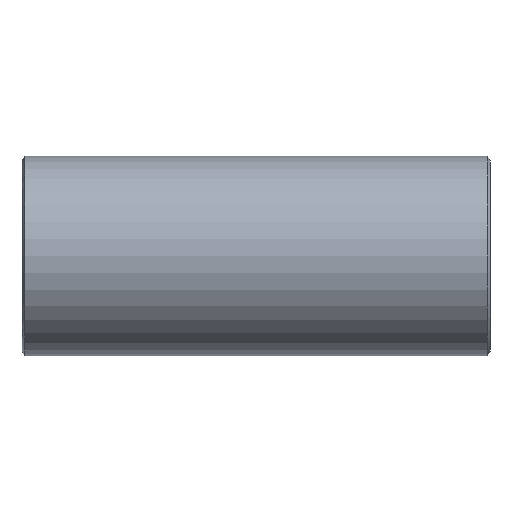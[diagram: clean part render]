
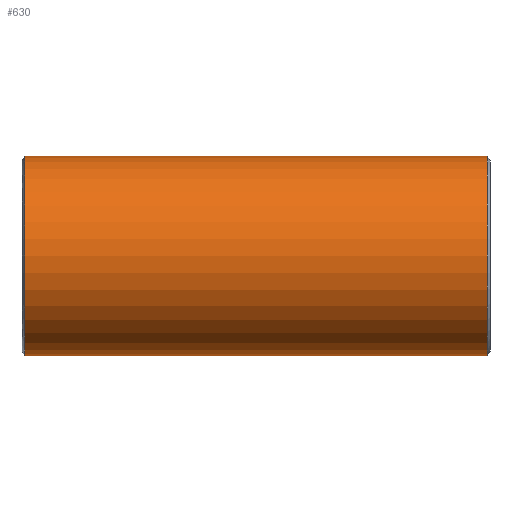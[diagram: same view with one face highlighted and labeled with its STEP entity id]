
A CAD part, front view. The second image highlights one B-rep face of the part: STEP entity #630.
In plain terms, the highlighted cylindrical face has radius 10.85 mm (diameter 21.7 mm), a partial arc.
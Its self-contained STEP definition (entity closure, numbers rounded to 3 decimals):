
#3 = CARTESIAN_POINT ( 'NONE',  ( 25.4, 0., -10.85 ) ) ;
#30 = VERTEX_POINT ( 'NONE', #996 ) ;
#32 = DIRECTION ( 'NONE',  ( -1., 0., 0. ) ) ;
#34 = CARTESIAN_POINT ( 'NONE',  ( 25.4, 0., 10.85 ) ) ;
#59 = ORIENTED_EDGE ( 'NONE', *, *, #1012, .F. ) ;
#61 = EDGE_CURVE ( 'NONE', #232, #30, #817, .T. ) ;
#103 = CARTESIAN_POINT ( 'NONE',  ( 25.081, 0., 10.85 ) ) ;
#117 = ORIENTED_EDGE ( 'NONE', *, *, #639, .T. ) ;
#125 = EDGE_CURVE ( 'NONE', #30, #577, #836, .T. ) ;
#149 = ORIENTED_EDGE ( 'NONE', *, *, #729, .T. ) ;
#156 = CARTESIAN_POINT ( 'NONE',  ( 25.4, 0., 10.85 ) ) ;
#225 = DIRECTION ( 'NONE',  ( -1., 0., 0. ) ) ;
#232 = VERTEX_POINT ( 'NONE', #651 ) ;
#239 = VERTEX_POINT ( 'NONE', #103 ) ;
#245 = ORIENTED_EDGE ( 'NONE', *, *, #61, .F. ) ;
#254 = VECTOR ( 'NONE', #636, 1000. ) ;
#267 = ORIENTED_EDGE ( 'NONE', *, *, #125, .F. ) ;
#292 = CARTESIAN_POINT ( 'NONE',  ( 0., 0., 10.85 ) ) ;
#314 = DIRECTION ( 'NONE',  ( -1., 0., 0. ) ) ;
#324 = CARTESIAN_POINT ( 'NONE',  ( -25.081, 0., 10.85 ) ) ;
#326 = LINE ( 'NONE', #34, #601 ) ;
#341 = CARTESIAN_POINT ( 'NONE',  ( -25.081, 0., 0. ) ) ;
#368 = VECTOR ( 'NONE', #731, 1000. ) ;
#433 = ORIENTED_EDGE ( 'NONE', *, *, #535, .T. ) ;
#489 = CYLINDRICAL_SURFACE ( 'NONE', #1156, 10.85 ) ;
#505 = DIRECTION ( 'NONE',  ( 0., 0., 1. ) ) ;
#535 = EDGE_CURVE ( 'NONE', #619, #875, #714, .T. ) ;
#577 = VERTEX_POINT ( 'NONE', #969 ) ;
#601 = VECTOR ( 'NONE', #225, 1000. ) ;
#619 = VERTEX_POINT ( 'NONE', #292 ) ;
#630 = ADVANCED_FACE ( 'NONE', ( #1143 ), #489, .T. ) ;
#636 = DIRECTION ( 'NONE',  ( -1., 0., 0. ) ) ;
#639 = EDGE_CURVE ( 'NONE', #239, #619, #326, .T. ) ;
#651 = CARTESIAN_POINT ( 'NONE',  ( 25.081, 0., -10.85 ) ) ;
#713 = DIRECTION ( 'NONE',  ( 0., 0., 1. ) ) ;
#714 = LINE ( 'NONE', #156, #846 ) ;
#723 = DIRECTION ( 'NONE',  ( -1., 0., 0. ) ) ;
#729 = EDGE_CURVE ( 'NONE', #232, #239, #923, .T. ) ;
#731 = DIRECTION ( 'NONE',  ( -1., 0., 0. ) ) ;
#768 = DIRECTION ( 'NONE',  ( 0., 0., 1. ) ) ;
#817 = LINE ( 'NONE', #3, #368 ) ;
#836 = LINE ( 'NONE', #934, #254 ) ;
#846 = VECTOR ( 'NONE', #1163, 1000. ) ;
#870 = EDGE_LOOP ( 'NONE', ( #245, #149, #117, #433, #59, #267 ) ) ;
#875 = VERTEX_POINT ( 'NONE', #324 ) ;
#902 = CIRCLE ( 'NONE', #1060, 10.85 ) ;
#923 = CIRCLE ( 'NONE', #1172, 10.85 ) ;
#934 = CARTESIAN_POINT ( 'NONE',  ( 25.4, 0., -10.85 ) ) ;
#969 = CARTESIAN_POINT ( 'NONE',  ( -25.081, 0., -10.85 ) ) ;
#996 = CARTESIAN_POINT ( 'NONE',  ( 0., 0., -10.85 ) ) ;
#1012 = EDGE_CURVE ( 'NONE', #577, #875, #902, .T. ) ;
#1047 = CARTESIAN_POINT ( 'NONE',  ( 25.081, 0., 0. ) ) ;
#1054 = CARTESIAN_POINT ( 'NONE',  ( 25.4, 0., 0. ) ) ;
#1060 = AXIS2_PLACEMENT_3D ( 'NONE', #341, #723, #713 ) ;
#1143 = FACE_OUTER_BOUND ( 'NONE', #870, .T. ) ;
#1156 = AXIS2_PLACEMENT_3D ( 'NONE', #1054, #314, #505 ) ;
#1163 = DIRECTION ( 'NONE',  ( -1., 0., 0. ) ) ;
#1172 = AXIS2_PLACEMENT_3D ( 'NONE', #1047, #32, #768 ) ;
